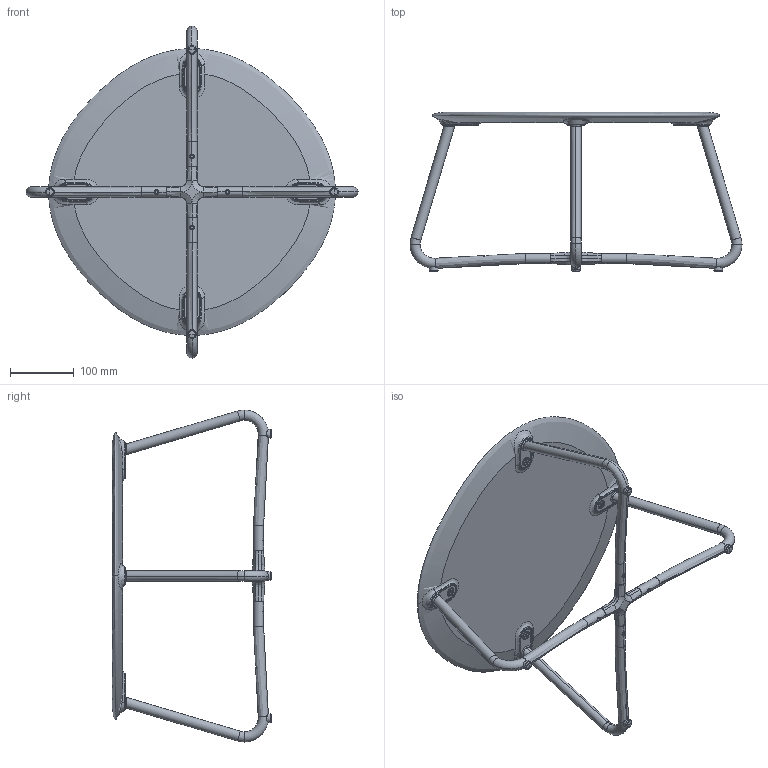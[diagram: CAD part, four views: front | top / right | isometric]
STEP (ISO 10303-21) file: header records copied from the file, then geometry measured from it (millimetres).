
FILE_DESCRIPTION (( 'STEP AP214' ), '1' );
FILE_NAME ('Lily_Side_Table_H250_N.STEP', '2023-08-03T08:24:05', ( '' ), ( '' ), 'SwSTEP 2.0', 'SolidWorks 2023', '' );
FILE_SCHEMA (( 'AUTOMOTIVE_DESIGN' ));
Length unit declared in the file: millimetre
Products named in the file (8): countersunk flat head cross recess screw_iso_ISO 7046-1 - M6 x 16 - Z - 16S; Grooved Bushing M6x8.8x13.5; Lily_Side_Table_H250_N; 230213 Lily top; STAR1416-195S-Ackurat; 230327 4 way connector (approved for tooling); 230802 Lily leg ø450 low (35mm move); socket set screw cone point_iso_ISO 4027 - M6 x 14-N
Assembly tree (22 placements, depth 2):
  Lily_Side_Table_H250_N
    230213 Lily top
    countersunk flat head cross recess screw_iso_ISO 7046-1 - M6 x 16 - Z - 16S  x4
    Grooved Bushing M6x8.8x13.5  x4
    230802 Lily leg ø450 low (35mm move)  x4
    230327 4 way connector (approved for tooling)
    STAR1416-195S-Ackurat  x4
    socket set screw cone point_iso_ISO 4027 - M6 x 14-N  x4
Bounding box: 521.19 x 250 x 521.19 mm (x, y, z)
Volume: 2497919.7 mm3; surface area: 505242.9 mm2
Topology: 24 solids, 24 shells, 1163 faces, 3114 edges, 1997 vertices
Faces by surface type: cone 296, bspline 272, cylinder 258, plane 225, torus 112
Entity records: 43897 total; most frequent: CARTESIAN_POINT 31379, ORIENTED_EDGE 3174, DIRECTION 1666, EDGE_CURVE 1587, VERTEX_POINT 1079, B_SPLINE_CURVE_WITH_KNOTS 870, AXIS2_PLACEMENT_3D 679, EDGE_LOOP 584
